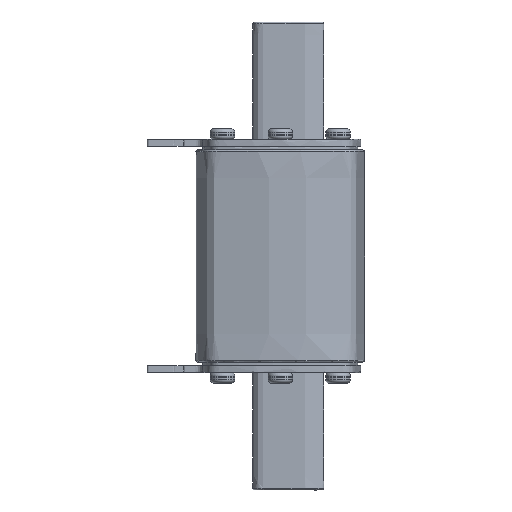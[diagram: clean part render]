
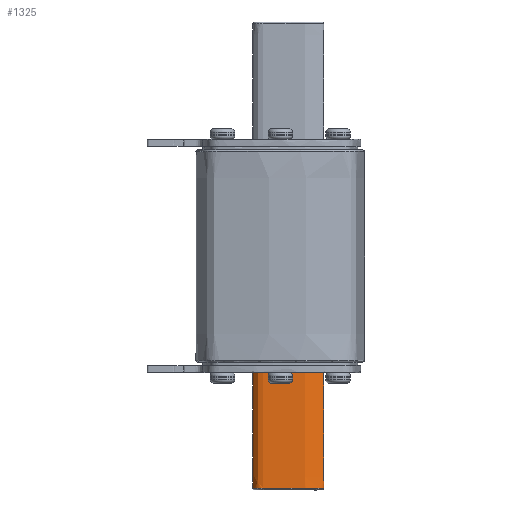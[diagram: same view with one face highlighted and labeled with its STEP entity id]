
A CAD part, left-side view. The second image highlights one B-rep face of the part: STEP entity #1325.
In plain terms, the highlighted face is a extrusion surface.
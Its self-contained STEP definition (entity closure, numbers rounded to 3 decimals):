
#604=SURFACE_OF_LINEAR_EXTRUSION('',#1952,#2478);
#671=B_SPLINE_CURVE_WITH_KNOTS('',3,(#10727,#10728,#10729,#10730,#10731,
#10732,#10733,#10734,#10735,#10736,#10737,#10738,#10739,#10740,#10741,#10742,
#10743,#10744,#10745,#10746,#10747,#10748,#10749,#10750,#10751,#10752,#10753,
#10754,#10755,#10756,#10757,#10758,#10759,#10760),.UNSPECIFIED.,.T.,.F.,
(2,2,2,2,1,1,2,2,2,2,1,2,2,1,1,1,2,2,2,2,2,2),(-0.063,0.,0.25,
0.266,0.281,0.312,0.344,0.375,
0.406,0.422,0.437,0.5,
0.531,0.562,0.625,0.75,
0.781,0.812,0.875,0.937,
1.,1.25),.UNSPECIFIED.);
#1325=ADVANCED_FACE('',(#2706,#2707),#604,.F.);
#1951=(
BOUNDED_CURVE()
B_SPLINE_CURVE(4,(#10604,#10605,#10606,#10607,#10608,#10609,#10610,#10611,
#10612,#10613,#10614,#10615,#10616,#10617,#10618,#10619,#10620,#10621,#10622,
#10623,#10624,#10625,#10626,#10627,#10628,#10629,#10630,#10631,#10632,#10633,
#10634,#10635,#10636,#10637,#10638,#10639,#10640,#10641,#10642),
 .UNSPECIFIED.,.T.,.F.)
B_SPLINE_CURVE_WITH_KNOTS((1,4,4,4,3,3,3,4,4,3,3,3,4,1),(-0.066,
0.,0.264,0.273,0.381,0.405,
0.429,0.536,0.545,0.803,
0.869,0.934,1.,1.264),.UNSPECIFIED.)
CURVE()
GEOMETRIC_REPRESENTATION_ITEM()
RATIONAL_B_SPLINE_CURVE((1.,1.,1.,1.,1.,0.989,0.985,
0.989,1.,1.,1.,1.,1.,0.983,1.,1.,0.983,
1.,1.,1.,1.,1.,0.989,0.985,0.989,1.,
1.,1.,1.,1.,0.988,1.,1.,0.988,1.,1.,0.988,
1.,1.))
REPRESENTATION_ITEM('')
);
#1952=(
BOUNDED_CURVE()
B_SPLINE_CURVE(4,(#10762,#10763,#10764,#10765,#10766,#10767,#10768,#10769,
#10770,#10771,#10772,#10773,#10774,#10775,#10776,#10777,#10778,#10779,#10780,
#10781,#10782,#10783,#10784,#10785,#10786,#10787,#10788,#10789,#10790,#10791,
#10792,#10793,#10794,#10795,#10796,#10797,#10798,#10799,#10800),
 .UNSPECIFIED.,.T.,.F.)
B_SPLINE_CURVE_WITH_KNOTS((1,4,4,4,3,3,3,4,4,3,3,3,4,1),(-0.066,
0.,0.264,0.273,0.381,0.405,
0.429,0.536,0.545,0.803,
0.869,0.934,1.,1.264),.UNSPECIFIED.)
CURVE()
GEOMETRIC_REPRESENTATION_ITEM()
RATIONAL_B_SPLINE_CURVE((1.,1.,1.,1.,1.,0.989,0.985,
0.989,1.,1.,1.,1.,1.,0.983,1.,1.,0.983,
1.,1.,1.,1.,1.,0.989,0.985,0.989,1.,
1.,1.,1.,1.,0.988,1.,1.,0.988,1.,1.,0.988,
1.,1.))
REPRESENTATION_ITEM('')
);
#2478=VECTOR('',#8894,1.);
#2706=FACE_BOUND('',#3160,.T.);
#2707=FACE_BOUND('',#3161,.T.);
#3160=EDGE_LOOP('',(#3996));
#3161=EDGE_LOOP('',(#3997));
#3996=ORIENTED_EDGE('',*,*,#6665,.T.);
#3997=ORIENTED_EDGE('',*,*,#6626,.F.);
#5889=VERTEX_POINT('',#10643);
#5910=VERTEX_POINT('',#10761);
#6626=EDGE_CURVE('',#5889,#5889,#1951,.T.);
#6665=EDGE_CURVE('',#5910,#5910,#671,.T.);
#8894=DIRECTION('',(0.,0.,-1.));
#10604=CARTESIAN_POINT('',(4479.346,-1261.056,36.5));
#10605=CARTESIAN_POINT('',(4479.346,-1264.002,36.5));
#10606=CARTESIAN_POINT('',(4479.346,-1266.948,36.5));
#10607=CARTESIAN_POINT('',(4479.346,-1269.894,36.5));
#10608=CARTESIAN_POINT('',(4479.346,-1272.84,36.5));
#10609=CARTESIAN_POINT('',(4479.346,-1272.947,36.5));
#10610=CARTESIAN_POINT('',(4479.361,-1273.052,36.5));
#10611=CARTESIAN_POINT('',(4479.391,-1273.155,36.5));
#10612=CARTESIAN_POINT('',(4479.435,-1273.252,36.5));
#10613=CARTESIAN_POINT('',(4479.935,-1274.356,36.5));
#10614=CARTESIAN_POINT('',(4480.435,-1275.46,36.5));
#10615=CARTESIAN_POINT('',(4480.935,-1276.564,36.5));
#10616=CARTESIAN_POINT('',(4481.547,-1277.915,36.5));
#10617=CARTESIAN_POINT('',(4481.766,-1278.156,36.5));
#10618=CARTESIAN_POINT('',(4482.075,-1278.256,36.5));
#10619=CARTESIAN_POINT('',(4482.617,-1278.256,36.5));
#10620=CARTESIAN_POINT('',(4482.927,-1278.156,36.5));
#10621=CARTESIAN_POINT('',(4483.146,-1277.915,36.5));
#10622=CARTESIAN_POINT('',(4483.757,-1276.564,36.5));
#10623=CARTESIAN_POINT('',(4484.257,-1275.46,36.5));
#10624=CARTESIAN_POINT('',(4484.757,-1274.356,36.5));
#10625=CARTESIAN_POINT('',(4485.257,-1273.252,36.5));
#10626=CARTESIAN_POINT('',(4485.301,-1273.155,36.5));
#10627=CARTESIAN_POINT('',(4485.331,-1273.052,36.5));
#10628=CARTESIAN_POINT('',(4485.346,-1272.947,36.5));
#10629=CARTESIAN_POINT('',(4485.346,-1272.84,36.5));
#10630=CARTESIAN_POINT('',(4485.346,-1269.894,36.5));
#10631=CARTESIAN_POINT('',(4485.346,-1266.948,36.5));
#10632=CARTESIAN_POINT('',(4485.346,-1264.002,36.5));
#10633=CARTESIAN_POINT('',(4485.346,-1260.306,36.5));
#10634=CARTESIAN_POINT('',(4485.093,-1259.47,36.5));
#10635=CARTESIAN_POINT('',(4484.496,-1258.833,36.5));
#10636=CARTESIAN_POINT('',(4483.197,-1258.083,36.5));
#10637=CARTESIAN_POINT('',(4482.346,-1257.884,36.5));
#10638=CARTESIAN_POINT('',(4481.496,-1258.083,36.5));
#10639=CARTESIAN_POINT('',(4480.197,-1258.833,36.5));
#10640=CARTESIAN_POINT('',(4479.599,-1259.47,36.5));
#10641=CARTESIAN_POINT('',(4479.346,-1260.306,36.5));
#10642=CARTESIAN_POINT('',(4479.346,-1261.056,36.5));
#10643=CARTESIAN_POINT('',(4479.346,-1261.056,36.5));
#10727=CARTESIAN_POINT('',(4479.346,-1260.074,0.5));
#10728=CARTESIAN_POINT('',(4479.346,-1264.983,0.5));
#10729=CARTESIAN_POINT('',(4479.346,-1268.911,0.5));
#10730=CARTESIAN_POINT('',(4479.346,-1273.084,0.5));
#10731=CARTESIAN_POINT('',(4479.461,-1273.308,0.5));
#10732=CARTESIAN_POINT('',(4479.664,-1273.756,0.5));
#10733=CARTESIAN_POINT('',(4479.968,-1274.428,0.5));
#10734=CARTESIAN_POINT('',(4480.475,-1275.547,0.5));
#10735=CARTESIAN_POINT('',(4480.88,-1276.443,0.5));
#10736=CARTESIAN_POINT('',(4481.286,-1277.338,0.5));
#10737=CARTESIAN_POINT('',(4481.418,-1277.871,0.5));
#10738=CARTESIAN_POINT('',(4482.267,-1278.367,0.5));
#10739=CARTESIAN_POINT('',(4482.867,-1278.236,0.5));
#10740=CARTESIAN_POINT('',(4483.294,-1277.655,0.5));
#10741=CARTESIAN_POINT('',(4483.366,-1277.428,0.5));
#10742=CARTESIAN_POINT('',(4483.561,-1276.999,0.5));
#10743=CARTESIAN_POINT('',(4484.047,-1275.925,0.5));
#10744=CARTESIAN_POINT('',(4484.533,-1274.852,0.5));
#10745=CARTESIAN_POINT('',(4485.116,-1273.564,0.5));
#10746=CARTESIAN_POINT('',(4485.346,-1273.136,0.5));
#10747=CARTESIAN_POINT('',(4485.346,-1272.206,0.5));
#10748=CARTESIAN_POINT('',(4485.346,-1270.812,0.5));
#10749=CARTESIAN_POINT('',(4485.346,-1267.558,0.5));
#10750=CARTESIAN_POINT('',(4485.346,-1264.305,0.5));
#10751=CARTESIAN_POINT('',(4485.346,-1261.981,0.5));
#10752=CARTESIAN_POINT('',(4485.346,-1261.051,0.5));
#10753=CARTESIAN_POINT('',(4485.345,-1260.577,0.5));
#10754=CARTESIAN_POINT('',(4484.908,-1259.232,0.5));
#10755=CARTESIAN_POINT('',(4484.18,-1258.498,0.5));
#10756=CARTESIAN_POINT('',(4482.371,-1257.909,0.5));
#10757=CARTESIAN_POINT('',(4481.349,-1258.074,0.5));
#10758=CARTESIAN_POINT('',(4479.823,-1259.179,0.5));
#10759=CARTESIAN_POINT('',(4479.346,-1260.074,0.5));
#10760=CARTESIAN_POINT('',(4479.346,-1264.983,0.5));
#10761=CARTESIAN_POINT('',(4479.346,-1261.056,0.5));
#10762=CARTESIAN_POINT('',(4479.346,-1261.056,36.5));
#10763=CARTESIAN_POINT('',(4479.346,-1264.002,36.5));
#10764=CARTESIAN_POINT('',(4479.346,-1266.948,36.5));
#10765=CARTESIAN_POINT('',(4479.346,-1269.894,36.5));
#10766=CARTESIAN_POINT('',(4479.346,-1272.84,36.5));
#10767=CARTESIAN_POINT('',(4479.346,-1272.947,36.5));
#10768=CARTESIAN_POINT('',(4479.361,-1273.052,36.5));
#10769=CARTESIAN_POINT('',(4479.391,-1273.155,36.5));
#10770=CARTESIAN_POINT('',(4479.435,-1273.252,36.5));
#10771=CARTESIAN_POINT('',(4479.935,-1274.356,36.5));
#10772=CARTESIAN_POINT('',(4480.435,-1275.46,36.5));
#10773=CARTESIAN_POINT('',(4480.935,-1276.564,36.5));
#10774=CARTESIAN_POINT('',(4481.547,-1277.915,36.5));
#10775=CARTESIAN_POINT('',(4481.766,-1278.156,36.5));
#10776=CARTESIAN_POINT('',(4482.075,-1278.256,36.5));
#10777=CARTESIAN_POINT('',(4482.617,-1278.256,36.5));
#10778=CARTESIAN_POINT('',(4482.927,-1278.156,36.5));
#10779=CARTESIAN_POINT('',(4483.146,-1277.915,36.5));
#10780=CARTESIAN_POINT('',(4483.757,-1276.564,36.5));
#10781=CARTESIAN_POINT('',(4484.257,-1275.46,36.5));
#10782=CARTESIAN_POINT('',(4484.757,-1274.356,36.5));
#10783=CARTESIAN_POINT('',(4485.257,-1273.252,36.5));
#10784=CARTESIAN_POINT('',(4485.301,-1273.155,36.5));
#10785=CARTESIAN_POINT('',(4485.331,-1273.052,36.5));
#10786=CARTESIAN_POINT('',(4485.346,-1272.947,36.5));
#10787=CARTESIAN_POINT('',(4485.346,-1272.84,36.5));
#10788=CARTESIAN_POINT('',(4485.346,-1269.894,36.5));
#10789=CARTESIAN_POINT('',(4485.346,-1266.948,36.5));
#10790=CARTESIAN_POINT('',(4485.346,-1264.002,36.5));
#10791=CARTESIAN_POINT('',(4485.346,-1260.306,36.5));
#10792=CARTESIAN_POINT('',(4485.093,-1259.47,36.5));
#10793=CARTESIAN_POINT('',(4484.496,-1258.833,36.5));
#10794=CARTESIAN_POINT('',(4483.197,-1258.083,36.5));
#10795=CARTESIAN_POINT('',(4482.346,-1257.884,36.5));
#10796=CARTESIAN_POINT('',(4481.496,-1258.083,36.5));
#10797=CARTESIAN_POINT('',(4480.197,-1258.833,36.5));
#10798=CARTESIAN_POINT('',(4479.599,-1259.47,36.5));
#10799=CARTESIAN_POINT('',(4479.346,-1260.306,36.5));
#10800=CARTESIAN_POINT('',(4479.346,-1261.056,36.5));
